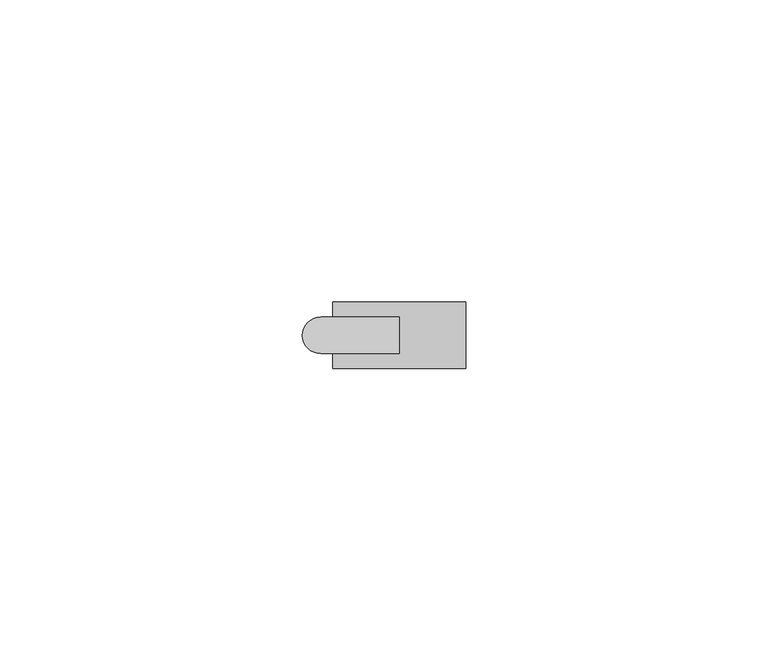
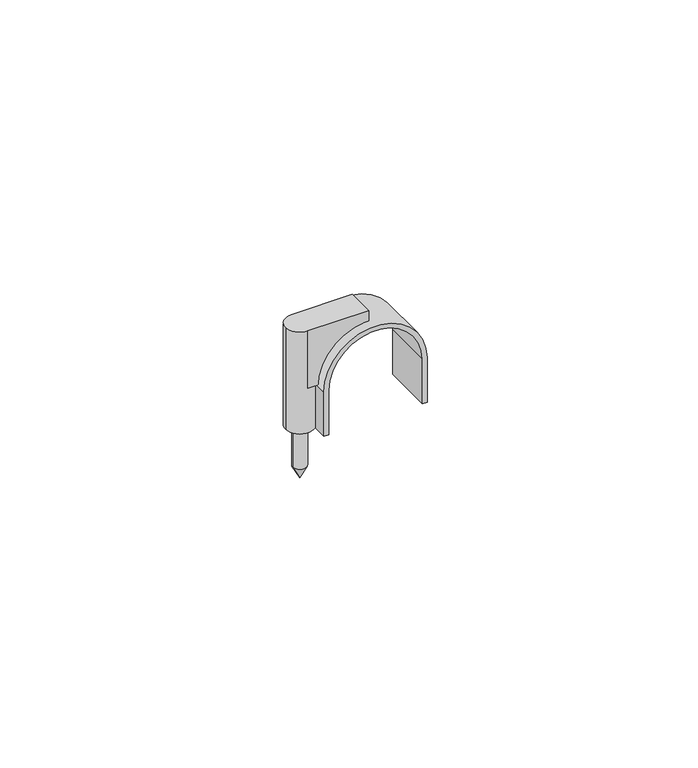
"""IFC4 building model written with IfcOpenShell, lengths in millimetres: cable carrier fitting geometry, КНС_СкобаПластиковаяСГвоздем_DKC : д.19 - 20мм."""

import ifcopenshell
import ifcopenshell.guid

model = None  # the IFC model being written
_history = None  # IfcOwnerHistory: only IFC2X3 demands one
_inside = {}  # id of a spatial element -> (the spatial element, [elements in it])
_under = {}  # id of a project, library or spatial element -> (it, [spatial elements below it])
_declared = {}  # id of a project -> (the project, [libraries it declares])
_typed = {}  # id of a type object -> (the type object, [elements of that type])
_made_of = {}  # id of a material, layer set ... -> (it, [elements and type objects made of it])


def new_model(schema):
    """Start an empty IFC model of exactly this schema.

    Asked for "IFC4X3", IfcOpenShell would pick the latest addendum, in which some entities
    have other attributes; the version numbers below select the first issue.
    IFC2X3 requires an IfcOwnerHistory on every rooted entity: one is made here for all.
    """
    global model, _history
    if schema == "IFC4X3":
        model = ifcopenshell.file(schema_version=(4, 3, 0, 0))
    else:
        model = ifcopenshell.file(schema=schema)
    _inside.clear()
    _under.clear()
    _declared.clear()
    _typed.clear()
    _made_of.clear()
    _history = None
    if model.schema == "IFC2X3":
        org = make("IfcOrganization", Name="unknown")
        user = make(
            "IfcPersonAndOrganization",
            ThePerson=make("IfcPerson", FamilyName="unknown"),
            TheOrganization=org,
        )
        app = make(
            "IfcApplication",
            ApplicationDeveloper=org,
            Version="unknown",
            ApplicationFullName="unknown",
            ApplicationIdentifier="unknown",
        )
        _history = make(
            "IfcOwnerHistory",
            OwningUser=user,
            OwningApplication=app,
            ChangeAction="ADDED",
            CreationDate=0,
        )
    return model


def make(cls, **values):
    """One entity of the class cls with the attributes given. An attribute that is None is left unset."""
    return model.create_entity(
        cls, **{name: value for name, value in values.items() if value is not None}
    )


def rooted(cls, **values):
    """An entity with a GlobalId (a new one), such as an element, a storey or a relation."""
    return make(cls, GlobalId=ifcopenshell.guid.new(), OwnerHistory=_history, **values)


def si_unit(unit_type, name, prefix=None):
    """IfcSIUnit, for example si_unit("LENGTHUNIT", "METRE", prefix="MILLI")."""
    return make("IfcSIUnit", UnitType=unit_type, Prefix=prefix, Name=name)


def assignment(units):
    """IfcUnitAssignment: the units of a project."""
    return None if units is None else make("IfcUnitAssignment", Units=units)


def point(xyz):
    """IfcCartesianPoint."""
    return None if xyz is None else make("IfcCartesianPoint", Coordinates=xyz)


def direction(xyz):
    """IfcDirection."""
    return None if xyz is None else make("IfcDirection", DirectionRatios=xyz)


def frame(location, z_axis=None, x_axis=None):
    """IfcAxis2Placement3D, a coordinate frame: its origin and axes. An axis left out is left unset."""
    return make(
        "IfcAxis2Placement3D",
        Location=point(location),
        Axis=direction(z_axis),
        RefDirection=direction(x_axis),
    )


def frame_2d(location, x_axis=None):
    """IfcAxis2Placement2D, a coordinate frame in the plane: its origin and x axis."""
    return make(
        "IfcAxis2Placement2D", Location=point(location), RefDirection=direction(x_axis)
    )


def origin():
    """The frame at (0, 0, 0) with its axes left unset."""
    return frame((0.0, 0.0, 0.0))


def place(relative_to, where):
    """IfcLocalPlacement: puts the frame where relative to a parent placement (None: the world)."""
    return make(
        "IfcLocalPlacement", PlacementRelTo=relative_to, RelativePlacement=where
    )


def context(
    kind, dimensions, precision=None, world=None, true_north=None, identifier=None
):
    """IfcGeometricRepresentationContext, for example the 3D "Model" context."""
    return make(
        "IfcGeometricRepresentationContext",
        ContextIdentifier=identifier,
        ContextType=kind,
        CoordinateSpaceDimension=dimensions,
        Precision=precision,
        WorldCoordinateSystem=world,
        TrueNorth=true_north,
    )


def project(units=None, contexts=None):
    """IfcProject with its units and contexts."""
    return rooted(
        "IfcProject",
        Name="project",
        RepresentationContexts=contexts,
        UnitsInContext=assignment(units),
    )


def spatial(cls, under=None, at=None, **own):
    """A site, building, storey or space (cls), placed at a placement, below another one or the project."""
    s = rooted(cls, ObjectPlacement=at, **own)
    if under is not None:
        _under.setdefault(under.id(), (under, []))[1].append(s)
    return s


def polyline(points):
    """IfcPolyline through the points."""
    return make("IfcPolyline", Points=[point(p) for p in points])


def circle_curve(where, radius):
    """IfcCircle in the frame where."""
    return make("IfcCircle", Position=where, Radius=radius)


def trimmed(basis, trim1, trim2, sense, master):
    """IfcTrimmedCurve: the piece of a basis curve between two trims."""
    return make(
        "IfcTrimmedCurve",
        BasisCurve=basis,
        Trim1=trim1,
        Trim2=trim2,
        SenseAgreement=sense,
        MasterRepresentation=master,
    )


def segment(curve, same_sense, transition):
    """IfcCompositeCurveSegment."""
    return make(
        "IfcCompositeCurveSegment",
        Transition=transition,
        SameSense=same_sense,
        ParentCurve=curve,
    )


def composite_curve(segments, self_intersect=None):
    """IfcCompositeCurve: segments joined end to end."""
    return make("IfcCompositeCurve", Segments=segments, SelfIntersect=self_intersect)


def outline(outer, holes=None, kind="AREA"):
    """IfcArbitraryClosedProfileDef: a profile drawn as a closed curve; with holes, ...WithVoids."""
    if holes is None:
        return make("IfcArbitraryClosedProfileDef", ProfileType=kind, OuterCurve=outer)
    return make(
        "IfcArbitraryProfileDefWithVoids",
        ProfileType=kind,
        OuterCurve=outer,
        InnerCurves=holes,
    )


def extrude(swept, where, along, depth):
    """IfcExtrudedAreaSolid: the profile swept, set in the frame where, extruded along a direction by depth."""
    return make(
        "IfcExtrudedAreaSolid",
        SweptArea=swept,
        Position=where,
        ExtrudedDirection=direction(along),
        Depth=depth,
    )


def shape(context_of_items, identifier, shape_type, items):
    """IfcShapeRepresentation: the items that make up one representation, for example the "Body"."""
    return make(
        "IfcShapeRepresentation",
        ContextOfItems=context_of_items,
        RepresentationIdentifier=identifier,
        RepresentationType=shape_type,
        Items=items,
    )


def source(mapping_origin, context_of_items, identifier, shape_type, items):
    """IfcRepresentationMap: a shape defined once, which mapped items show again and again."""
    return make(
        "IfcRepresentationMap",
        MappingOrigin=mapping_origin,
        MappedRepresentation=shape(context_of_items, identifier, shape_type, items),
    )


def transform(
    local_origin,
    x_axis=None,
    y_axis=None,
    z_axis=None,
    scale=None,
    scale2=None,
    scale3=None,
    uniform=True,
):
    """IfcCartesianTransformationOperator3D, or its non-uniform kind. x_axis, y_axis, z_axis: its Axis1, 2, 3."""
    if uniform:
        return make(
            "IfcCartesianTransformationOperator3D",
            Axis1=direction(x_axis),
            Axis2=direction(y_axis),
            LocalOrigin=point(local_origin),
            Scale=scale,
            Axis3=direction(z_axis),
        )
    return make(
        "IfcCartesianTransformationOperator3DnonUniform",
        Axis1=direction(x_axis),
        Axis2=direction(y_axis),
        LocalOrigin=point(local_origin),
        Scale=scale,
        Axis3=direction(z_axis),
        Scale2=scale2,
        Scale3=scale3,
    )


def mapped(mapping_source, mapping_target):
    """IfcMappedItem: shows the shape of a source again, moved by a transform."""
    return make(
        "IfcMappedItem", MappingSource=mapping_source, MappingTarget=mapping_target
    )


def made_of(thing, what):
    """Note that an element or type object is made of a material, layer set ...; save() writes the relation."""
    if what is not None:
        _made_of.setdefault(what.id(), (what, []))[1].append(thing)
    return thing


def element(
    cls,
    number,
    at=None,
    inside=None,
    cuts=None,
    type_object=None,
    material=None,
    context=None,
    identifier="Body",
    shape_type=None,
    held_by="IfcProductDefinitionShape",
    body=None,
    shapes=None,
    **own,
):
    """One element of the class cls, such as IfcWall. Its Tag is "e" and its number.

    at: its placement. inside: the storey or other place that contains it. cuts: it is an
    opening in that element (IfcRelVoidsElement). A single representation is given by context,
    identifier, shape_type and body (its items); several are given by shapes. held_by: the class
    of the entity that holds the representations. save() writes the other relations.
    """
    e = rooted(cls, Tag="e%d" % number, ObjectPlacement=at, **own)
    if body is not None:
        shapes = [shape(context, identifier, shape_type, body)]
    if shapes is not None:
        e.Representation = make(held_by, Representations=shapes)
    if inside is not None:
        _inside.setdefault(inside.id(), (inside, []))[1].append(e)
    if cuts is not None:
        rooted(
            "IfcRelVoidsElement", RelatingBuildingElement=cuts, RelatedOpeningElement=e
        )
    if type_object is not None:
        _typed.setdefault(type_object.id(), (type_object, []))[1].append(e)
    return made_of(e, material)


def aggregate(whole, parts):
    """IfcRelAggregates: a whole, such as a stair, and the parts it consists of."""
    return rooted("IfcRelAggregates", RelatingObject=whole, RelatedObjects=parts)


def save(model, path):
    """Write the relations noted so far, then the file.

    IfcRelAggregates (storeys below a building ...), IfcRelContainedInSpatialStructure (elements
    in a storey), IfcRelDefinesByType, IfcRelAssociatesMaterial and IfcRelDeclares: one each for
    every whole, place, type object, material and project.
    """
    for whole, parts in _under.values():
        aggregate(whole, parts)
    for where, things in _inside.values():
        rooted(
            "IfcRelContainedInSpatialStructure",
            RelatedElements=things,
            RelatingStructure=where,
        )
    for kind, things in _typed.values():
        rooted("IfcRelDefinesByType", RelatedObjects=things, RelatingType=kind)
    for what, things in _made_of.values():
        rooted("IfcRelAssociatesMaterial", RelatedObjects=things, RelatingMaterial=what)
    for by, libraries in _declared.values():
        rooted("IfcRelDeclares", RelatingContext=by, RelatedDefinitions=libraries)
    model.write(path)


def plane_surface(at):
    """IfcPlane: the flat surface through the origin of the frame at, square to its z axis."""
    return make("IfcPlane", Position=at)


def cylinder_surface(at, radius):
    """IfcCylindricalSurface: all points at the distance radius from the z axis of the frame at."""
    return make("IfcCylindricalSurface", Position=at, Radius=radius)


def revolved_surface(curve, axis_point, axis_direction):
    """IfcSurfaceOfRevolution: the curve turned about the line through axis_point along axis_direction."""
    return make(
        "IfcSurfaceOfRevolution",
        SweptCurve=make("IfcArbitraryOpenProfileDef", ProfileType="CURVE", Curve=curve),
        AxisPosition=make("IfcAxis1Placement", Location=point(axis_point), Axis=direction(axis_direction)),
    )


def advanced_brep(points, edges, surfaces, faces):
    """IfcAdvancedBrep: a solid bounded by faces that lie on surfaces and meet in shared edges.

    An edge is (start, end): straight between two places in points (the first is 0);
    or (start, end, curve); or (start, end, curve, False) where it runs against its curve.
    A face is (place in surfaces, loops), or (place, loops, False) where it looks against
    its surface's normal. A loop lists edges by number (the first is 1), with a minus sign
    where the edge is run from its end to its start. The first loop is the outer one.
    """
    corners = [point(p) for p in points]
    vertices = [make("IfcVertexPoint", VertexGeometry=c) for c in corners]
    made = []
    for start, end, *more in edges:
        made.append(
            make(
                "IfcEdgeCurve",
                EdgeStart=vertices[start],
                EdgeEnd=vertices[end],
                EdgeGeometry=more[0] if more else make("IfcPolyline", Points=[corners[start], corners[end]]),
                SameSense=more[1] if len(more) > 1 else True,
            )
        )
    hull = []
    for where, loops, *sense in faces:
        bounds = []
        for j, loop in enumerate(loops):
            ring = [make("IfcOrientedEdge", EdgeElement=made[abs(k) - 1], Orientation=k > 0) for k in loop]
            bounds.append(
                make(
                    "IfcFaceOuterBound" if j == 0 else "IfcFaceBound",
                    Bound=make("IfcEdgeLoop", EdgeList=ring),
                    Orientation=True,
                )
            )
        hull.append(make("IfcAdvancedFace", Bounds=bounds, FaceSurface=surfaces[where], SameSense=sense[0] if sense else True))
    return make("IfcAdvancedBrep", Outer=make("IfcClosedShell", CfsFaces=hull))


def cable_carrier_fitting_a5287bdb(model_context):
    return source(origin(), model_context, "Body", "SolidModel", [
        advanced_brep(
        [(-11.5, 0.0, 0.0), (-14.5, 0.0, 0.0), (-13.0, 0.0, 0.0), (-11.5, 0.0, -9.0), (-14.5, 0.0, -9.0), (-13.0, 0.0, -12.0)],
        [
            (0, 1, circle_curve(frame((-13.0, 0.0, 0.0), z_axis=(0.0, 0.0, 1.0), x_axis=(-1.0, 0.0, 0.0)), 1.5)),
            (1, 2),
            (2, 0),
            (1, 0, circle_curve(frame((-13.0, 0.0, 0.0), z_axis=(0.0, 0.0, 1.0), x_axis=(-1.0, 0.0, 0.0)), 1.5)),
            (3, 4, circle_curve(frame((-13.0, 0.0, -9.0), z_axis=(0.0, 0.0, 1.0), x_axis=(-1.0, 0.0, 0.0)), 1.5)),
            (4, 1),
            (0, 3),
            (4, 3, circle_curve(frame((-13.0, 0.0, -9.0), z_axis=(0.0, 0.0, 1.0), x_axis=(-1.0, 0.0, 0.0)), 1.5)),
            (5, 4),
            (3, 5),
        ],
        [
            plane_surface(frame((-13.0, 0.0, 0.0), z_axis=(0.0, 0.0, 1.0), x_axis=(-1.0, 0.0, 0.0))),
            cylinder_surface(frame((-13.0, 0.0, 34.2919306), z_axis=(0.0, 0.0, -1.0), x_axis=(-1.0, 0.0, 0.0)), 1.5),
            revolved_surface(polyline([(-14.5, 0.0, -9.0), (-13.0, 0.0, -12.0)]), (-13.0, 0.0, 34.2919306), (0.0, 0.0, -1.0)),
        ],
        [
            (0, [[1, 2, 3]]),
            (0, [[4, -3, -2]]),
            (1, [[5, 6, -1, 7]]),
            (1, [[8, -7, -4, -6]]),
            (2, [[9, -5, 10]]),
            (2, [[-10, -8, -9]]),
        ],
    ),
        advanced_brep(
        [(-10.0, -3.0, 10.0), (0.0, -3.0, 20.0), (0.0, -3.0, 23.0), (-13.0, -3.0, 23.0), (-13.0, -3.0, 10.0), (-10.0, 3.0, 10.0), (-13.0, 3.0, 10.0), (-13.0, 3.0, 23.0), (0.0, 3.0, 23.0), (0.0, 3.0, 20.0), (-10.0, 0.0, 10.0), (-16.0, 0.0, 23.0), (-10.0, 0.0, 0.0), (-16.0, 0.0, 0.0), (-13.0, 0.0, 0.0)],
        [
            (0, 1, circle_curve(frame((0.0, -3.0, 10.0), z_axis=(0.0, 1.0, 0.0), x_axis=(1.0, 0.0, 0.0)), 10.0)),
            (1, 2),
            (2, 3),
            (3, 4),
            (4, 0),
            (5, 6),
            (6, 7),
            (7, 8),
            (8, 9),
            (9, 5, circle_curve(frame((0.0, 3.0, 10.0), z_axis=(0.0, -1.0, 0.0), x_axis=(1.0, 0.0, 0.0)), 10.0)),
            (0, 10),
            (10, 5),
            (9, 1),
            (8, 2),
            (7, 11, circle_curve(frame((-13.0, 0.0, 23.0), z_axis=(0.0, 0.0, 1.0), x_axis=(-1.0, 0.0, 0.0)), 3.0)),
            (11, 3, circle_curve(frame((-13.0, 0.0, 23.0), z_axis=(0.0, 0.0, 1.0), x_axis=(-1.0, 0.0, 0.0)), 3.0)),
            (4, 10, circle_curve(frame((-13.0, 0.0, 10.0), z_axis=(0.0, 0.0, 1.0), x_axis=(-1.0, 0.0, 0.0)), 3.0)),
            (10, 6, circle_curve(frame((-13.0, 0.0, 10.0), z_axis=(0.0, 0.0, 1.0), x_axis=(-1.0, 0.0, 0.0)), 3.0)),
            (12, 13, circle_curve(frame((-13.0, 0.0, 0.0), z_axis=(0.0, 0.0, 1.0), x_axis=(-1.0, 0.0, 0.0)), 3.0)),
            (13, 11),
            (10, 12),
            (13, 12, circle_curve(frame((-13.0, 0.0, 0.0), z_axis=(0.0, 0.0, 1.0), x_axis=(-1.0, 0.0, 0.0)), 3.0)),
            (12, 14),
            (14, 13),
        ],
        [
            plane_surface(frame((10.0, -3.0, 10.0), z_axis=(0.0, -1.0, 0.0), x_axis=(0.0, 0.0, -1.0))),
            plane_surface(frame((10.0, 3.0, 10.0), z_axis=(0.0, 1.0, 0.0), x_axis=(0.0, 0.0, 1.0))),
            revolved_surface(polyline([(10.0, 3.0, 10.0), (10.0, -3.0, 10.0)]), (0.0, 3.0, 10.0), (0.0, 1.0, 0.0)),
            plane_surface(frame((0.0, -3.0, 20.0), z_axis=(1.0, 0.0, 0.0), x_axis=(0.0, 1.0, 0.0))),
            plane_surface(frame((0.0, -3.0, 23.0), z_axis=(0.0, 0.0, 1.0), x_axis=(0.0, 1.0, 0.0))),
            plane_surface(frame((-13.0, -3.0, 10.0), z_axis=(0.0, 0.0, -1.0), x_axis=(0.0, 1.0, 0.0))),
            cylinder_surface(frame((-13.0, 0.0, 34.2919306), z_axis=(0.0, 0.0, -1.0), x_axis=(-1.0, 0.0, 0.0)), 3.0),
            plane_surface(frame((-13.0, 0.0, 0.0), z_axis=(0.0, 0.0, -1.0), x_axis=(-1.0, 0.0, 0.0))),
        ],
        [
            (0, [[1, 2, 3, 4, 5]]),
            (1, [[6, 7, 8, 9, 10]]),
            (2, [[-1, 11, 12, -10, 13]]),
            (3, [[-2, -13, -9, 14]]),
            (4, [[-3, -14, -8, 15, 16]]),
            (5, [[-5, 17, -11]]),
            (5, [[-6, -12, 18]]),
            (6, [[19, 20, -15, -7, -18, 21]]),
            (6, [[-20, 22, -21, -17, -4, -16]]),
            (7, [[-19, 23, 24]]),
            (7, [[-22, -24, -23]]),
        ],
    ),
        extrude(outline(composite_curve([segment(polyline([(10.0, 10.0), (0.0, 10.0), (0.0, 11.0), (10.0, 11.0)]), True, "CONTINUOUS"), segment(trimmed(circle_curve(frame_2d((10.0, 0.0)), 11.0), [point((10.0, 11.0))], [point((10.0, -11.0))], False, "CARTESIAN"), True, "CONTINUOUS"), segment(polyline([(10.0, -11.0), (0.0, -11.0), (0.0, -10.0), (10.0, -10.0)]), True, "CONTINUOUS"), segment(trimmed(circle_curve(frame_2d((10.0, 0.0)), 10.0), [point((10.0, -10.0))], [point((10.0, 10.0))], True, "CARTESIAN"), True, "CONTINUOUS")], self_intersect=False)), frame((0.0, -5.5, 0.0), z_axis=(0.0, 1.0, 0.0), x_axis=(0.0, 0.0, 1.0)), (0.0, 0.0, 1.0), 11.0),
    ])


if __name__ == "__main__":
    model = new_model("IFC4")
    model_context = context("Model", 3, world=origin())
    ifc_project = project(units=[si_unit("LENGTHUNIT", "METRE", prefix="MILLI")], contexts=[model_context])
    site = spatial("IfcSite", under=ifc_project)
    building = spatial("IfcBuilding", under=site)
    placement = place(None, origin())
    cable_carrier_fitting_shape = cable_carrier_fitting_a5287bdb(model_context)
    element("IfcCableCarrierFitting", 1, ObjectType="КНС_СкобаПластиковаяСГвоздем_DKC : д.19 - 20мм", at=placement, inside=building, context=model_context, shape_type="MappedRepresentation", body=[
        mapped(cable_carrier_fitting_shape, transform((0.0, 0.0, 0.0), x_axis=(1.0, 0.0, 0.0), y_axis=(0.0, 1.0, 0.0), z_axis=(0.0, 0.0, 1.0))),
    ])
    save(model, "model.ifc")
